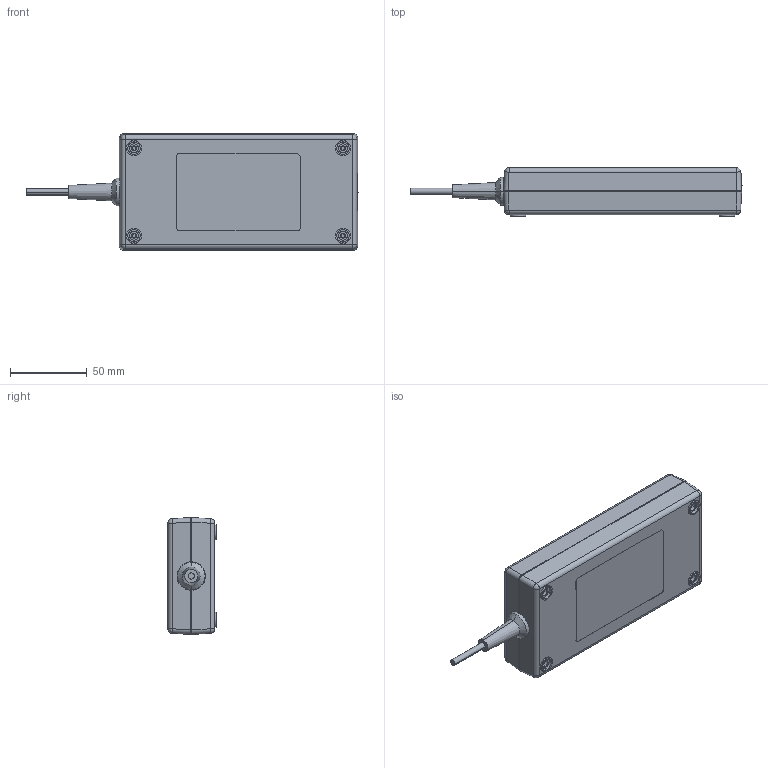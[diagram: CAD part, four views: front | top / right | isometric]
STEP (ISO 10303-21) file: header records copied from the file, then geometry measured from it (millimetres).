
FILE_DESCRIPTION((''),'2;1');
FILE_NAME('ADT-150B12AA_J-A_3D_ASM','2020-01-20T',('EUNICE.HUANG'),(''),'PRO/ENGINEER BY PARAMETRIC TECHNOLOGY CORPORATION, 2015240','PRO/ENGINEER BY PARAMETRIC TECHNOLOGY CORPORATION, 2015240','');
FILE_SCHEMA(('CONFIG_CONTROL_DESIGN'));
Length unit declared in the file: millimetre
Products named in the file (7): CHASSIS_060412_1; CASE_COVER_2T_1; SOCKET-C6_1; ADP150DH_ASM_ASM_64_ASM_ASM; ADP150DH_3D_ASM_ASM; SR_150W-1__W___ANY_1; ADT-150B12AA_J-A_3D_ASM
Assembly tree (6 placements, depth 4):
  ADT-150B12AA_J-A_3D_ASM
    ADP150DH_3D_ASM_ASM
      ADP150DH_ASM_ASM_64_ASM_ASM
        CHASSIS_060412_1
        CASE_COVER_2T_1
        SOCKET-C6_1
    SR_150W-1__W___ANY_1
Bounding box: 216.07 x 31.5 x 76 mm (x, y, z)
Volume: 88427.8 mm3; surface area: 84017.5 mm2
Topology: 4 solids, 4 shells, 967 faces, 2585 edges, 1657 vertices
Faces by surface type: plane 522, cylinder 249, cone 100, torus 40, bspline 35, sphere 13, extrusion 8
Entity records: 32073 total; most frequent: CARTESIAN_POINT 7901, ORIENTED_EDGE 5142, DIRECTION 4921, EDGE_CURVE 2571, AXIS2_PLACEMENT_3D 1721, VERTEX_POINT 1657, VECTOR 1479, LINE 1471
